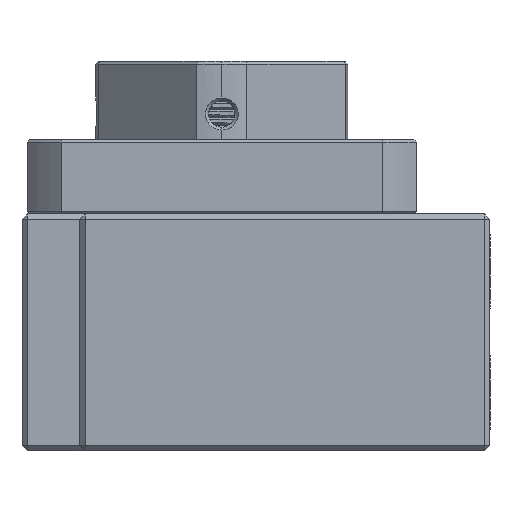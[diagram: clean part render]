
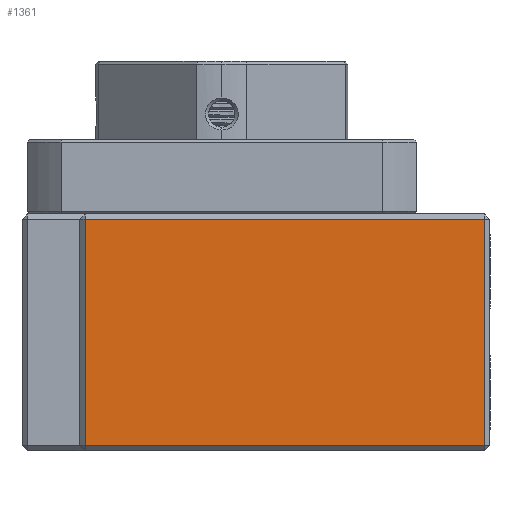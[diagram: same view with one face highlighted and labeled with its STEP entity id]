
A CAD part, left-side view. The second image highlights one B-rep face of the part: STEP entity #1361.
In plain terms, the highlighted planar face has unit normal (-1, 0, 0).
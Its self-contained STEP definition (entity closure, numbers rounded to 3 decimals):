
#464 = VERTEX_POINT ( 'NONE', #25428 ) ;
#880 = VERTEX_POINT ( 'NONE', #22033 ) ;
#1361 = ADVANCED_FACE ( 'NONE', ( #8133 ), #3540, .F. ) ;
#2227 = VECTOR ( 'NONE', #2929, 1000. ) ;
#2551 = LINE ( 'NONE', #13659, #17745 ) ;
#2929 = DIRECTION ( 'NONE',  ( 0., 1., 0. ) ) ;
#3056 = CARTESIAN_POINT ( 'NONE',  ( -64., 39., -21.5 ) ) ;
#3540 = PLANE ( 'NONE',  #12499 ) ;
#6105 = EDGE_CURVE ( 'NONE', #16276, #10970, #2551, .T. ) ;
#6672 = ORIENTED_EDGE ( 'NONE', *, *, #22726, .F. ) ;
#7394 = EDGE_LOOP ( 'NONE', ( #6672, #14666, #20744, #8644 ) ) ;
#7981 = CARTESIAN_POINT ( 'NONE',  ( -64., 77., 21.5 ) ) ;
#8133 = FACE_OUTER_BOUND ( 'NONE', #7394, .T. ) ;
#8644 = ORIENTED_EDGE ( 'NONE', *, *, #11885, .F. ) ;
#9115 = CARTESIAN_POINT ( 'NONE',  ( -64., 77., 0. ) ) ;
#10970 = VERTEX_POINT ( 'NONE', #21224 ) ;
#11299 = DIRECTION ( 'NONE',  ( 0., 0., -1. ) ) ;
#11370 = DIRECTION ( 'NONE',  ( 0., 0., 1. ) ) ;
#11885 = EDGE_CURVE ( 'NONE', #464, #880, #23089, .T. ) ;
#11907 = LINE ( 'NONE', #13681, #23023 ) ;
#12452 = CARTESIAN_POINT ( 'NONE',  ( -64., 1., 21.5 ) ) ;
#12499 = AXIS2_PLACEMENT_3D ( 'NONE', #12452, #26334, #21497 ) ;
#13304 = EDGE_CURVE ( 'NONE', #880, #16276, #20721, .T. ) ;
#13659 = CARTESIAN_POINT ( 'NONE',  ( -64., 39., 21.5 ) ) ;
#13681 = CARTESIAN_POINT ( 'NONE',  ( -64., 1., 0. ) ) ;
#14666 = ORIENTED_EDGE ( 'NONE', *, *, #6105, .F. ) ;
#16276 = VERTEX_POINT ( 'NONE', #7981 ) ;
#17745 = VECTOR ( 'NONE', #22718, 1000. ) ;
#20721 = LINE ( 'NONE', #9115, #27662 ) ;
#20744 = ORIENTED_EDGE ( 'NONE', *, *, #13304, .F. ) ;
#21224 = CARTESIAN_POINT ( 'NONE',  ( -64., 1., 21.5 ) ) ;
#21497 = DIRECTION ( 'NONE',  ( 0., 1., 0. ) ) ;
#22033 = CARTESIAN_POINT ( 'NONE',  ( -64., 77., -21.5 ) ) ;
#22718 = DIRECTION ( 'NONE',  ( 0., -1., 0. ) ) ;
#22726 = EDGE_CURVE ( 'NONE', #10970, #464, #11907, .T. ) ;
#23023 = VECTOR ( 'NONE', #11299, 1000. ) ;
#23089 = LINE ( 'NONE', #3056, #2227 ) ;
#25428 = CARTESIAN_POINT ( 'NONE',  ( -64., 1., -21.5 ) ) ;
#26334 = DIRECTION ( 'NONE',  ( 1., 0., 0. ) ) ;
#27662 = VECTOR ( 'NONE', #11370, 1000. ) ;
